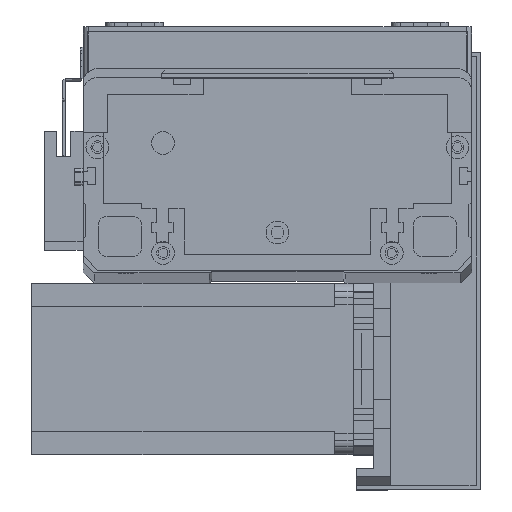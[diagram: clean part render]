
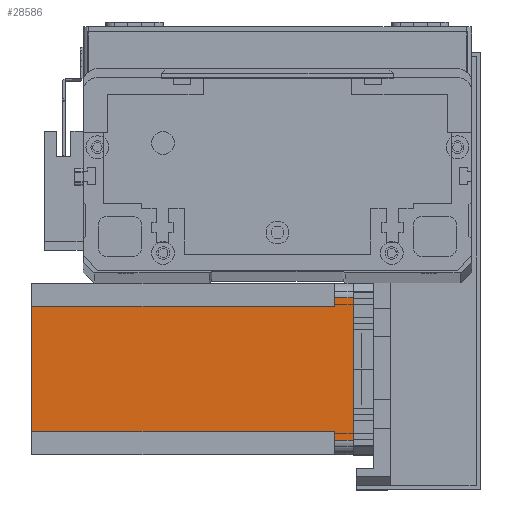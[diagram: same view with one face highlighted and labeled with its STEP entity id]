
A CAD part, top view. The second image highlights one B-rep face of the part: STEP entity #28586.
In plain terms, the highlighted planar face has unit normal (0, 0, 1) as drawn and (0, -1, 0) by its records, which use the part's own axes.
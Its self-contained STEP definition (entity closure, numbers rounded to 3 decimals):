
#1376 = ORIENTED_EDGE ( 'NONE', *, *, #16336, .F. ) ;
#1458 = VECTOR ( 'NONE', #16442, 1000. ) ;
#1784 = VERTEX_POINT ( 'NONE', #1864 ) ;
#1864 = CARTESIAN_POINT ( 'NONE',  ( 5., 0., 0. ) ) ;
#1876 = CARTESIAN_POINT ( 'NONE',  ( 52., 0., -6.5 ) ) ;
#2928 = LINE ( 'NONE', #23174, #1458 ) ;
#3534 = EDGE_LOOP ( 'NONE', ( #16514, #18345, #1376, #5784, #17344, #15385, #17358, #15601 ) ) ;
#3788 = CARTESIAN_POINT ( 'NONE',  ( 55., 0., 0. ) ) ;
#4053 = EDGE_CURVE ( 'NONE', #17096, #19379, #8826, .T. ) ;
#4205 = DIRECTION ( 'NONE',  ( 0., 0., 1. ) ) ;
#5132 = VECTOR ( 'NONE', #12480, 1000. ) ;
#5784 = ORIENTED_EDGE ( 'NONE', *, *, #6035, .T. ) ;
#5978 = CARTESIAN_POINT ( 'NONE',  ( 0., 0., -112.5 ) ) ;
#6035 = EDGE_CURVE ( 'NONE', #1784, #19379, #16144, .T. ) ;
#6149 = DIRECTION ( 'NONE',  ( 1., 0., 0. ) ) ;
#6660 = DIRECTION ( 'NONE',  ( -1., 0., 0. ) ) ;
#6772 = CARTESIAN_POINT ( 'NONE',  ( 8., 0., -6.5 ) ) ;
#7132 = VERTEX_POINT ( 'NONE', #21703 ) ;
#8513 = DIRECTION ( 'NONE',  ( 0., 0., 1. ) ) ;
#8726 = EDGE_CURVE ( 'NONE', #28719, #9724, #2928, .T. ) ;
#8826 = LINE ( 'NONE', #6772, #20843 ) ;
#9134 = LINE ( 'NONE', #13345, #22115 ) ;
#9724 = VERTEX_POINT ( 'NONE', #11706 ) ;
#9914 = VECTOR ( 'NONE', #11149, 1000. ) ;
#10003 = DIRECTION ( 'NONE',  ( 0., 0., -1. ) ) ;
#10864 = VERTEX_POINT ( 'NONE', #3788 ) ;
#11149 = DIRECTION ( 'NONE',  ( 0., 0., -1. ) ) ;
#11706 = CARTESIAN_POINT ( 'NONE',  ( 55., 0., -6.5 ) ) ;
#12480 = DIRECTION ( 'NONE',  ( 1., 0., 0. ) ) ;
#13025 = CARTESIAN_POINT ( 'NONE',  ( 8., 0., -6.5 ) ) ;
#13174 = LINE ( 'NONE', #22382, #29999 ) ;
#13263 = DIRECTION ( 'NONE',  ( 0., 0., -1. ) ) ;
#13345 = CARTESIAN_POINT ( 'NONE',  ( 0., 0., -112.5 ) ) ;
#15216 = VECTOR ( 'NONE', #10003, 1000. ) ;
#15385 = ORIENTED_EDGE ( 'NONE', *, *, #19980, .F. ) ;
#15601 = ORIENTED_EDGE ( 'NONE', *, *, #26387, .F. ) ;
#16144 = LINE ( 'NONE', #22473, #9914 ) ;
#16336 = EDGE_CURVE ( 'NONE', #1784, #10864, #23703, .T. ) ;
#16442 = DIRECTION ( 'NONE',  ( 1., 0., 0. ) ) ;
#16514 = ORIENTED_EDGE ( 'NONE', *, *, #8726, .T. ) ;
#17025 = CARTESIAN_POINT ( 'NONE',  ( 52., 0., -112.5 ) ) ;
#17096 = VERTEX_POINT ( 'NONE', #13025 ) ;
#17246 = VECTOR ( 'NONE', #4205, 1000. ) ;
#17344 = ORIENTED_EDGE ( 'NONE', *, *, #4053, .F. ) ;
#17358 = ORIENTED_EDGE ( 'NONE', *, *, #23487, .T. ) ;
#17949 = AXIS2_PLACEMENT_3D ( 'NONE', #5978, #26925, #13263 ) ;
#18345 = ORIENTED_EDGE ( 'NONE', *, *, #24081, .T. ) ;
#19031 = FACE_OUTER_BOUND ( 'NONE', #3534, .T. ) ;
#19379 = VERTEX_POINT ( 'NONE', #25310 ) ;
#19980 = EDGE_CURVE ( 'NONE', #27365, #17096, #23308, .T. ) ;
#20843 = VECTOR ( 'NONE', #6660, 1000. ) ;
#21703 = CARTESIAN_POINT ( 'NONE',  ( 52., 0., -112.5 ) ) ;
#22115 = VECTOR ( 'NONE', #6149, 1000. ) ;
#22382 = CARTESIAN_POINT ( 'NONE',  ( 55., 0., -112.5 ) ) ;
#22473 = CARTESIAN_POINT ( 'NONE',  ( 5., 0., -112.5 ) ) ;
#23174 = CARTESIAN_POINT ( 'NONE',  ( 52., 0., -6.5 ) ) ;
#23308 = LINE ( 'NONE', #29684, #17246 ) ;
#23318 = CARTESIAN_POINT ( 'NONE',  ( 8., 0., -112.5 ) ) ;
#23487 = EDGE_CURVE ( 'NONE', #27365, #7132, #9134, .T. ) ;
#23703 = LINE ( 'NONE', #23951, #5132 ) ;
#23951 = CARTESIAN_POINT ( 'NONE',  ( 0., 0., 0. ) ) ;
#24081 = EDGE_CURVE ( 'NONE', #9724, #10864, #13174, .T. ) ;
#24645 = PLANE ( 'NONE',  #17949 ) ;
#25310 = CARTESIAN_POINT ( 'NONE',  ( 5., 0., -6.5 ) ) ;
#26387 = EDGE_CURVE ( 'NONE', #28719, #7132, #26587, .T. ) ;
#26587 = LINE ( 'NONE', #17025, #15216 ) ;
#26925 = DIRECTION ( 'NONE',  ( 0., -1., 0. ) ) ;
#27365 = VERTEX_POINT ( 'NONE', #23318 ) ;
#28586 = ADVANCED_FACE ( 'NONE', ( #19031 ), #24645, .T. ) ;
#28719 = VERTEX_POINT ( 'NONE', #1876 ) ;
#29684 = CARTESIAN_POINT ( 'NONE',  ( 8., 0., -112.5 ) ) ;
#29999 = VECTOR ( 'NONE', #8513, 1000. ) ;
